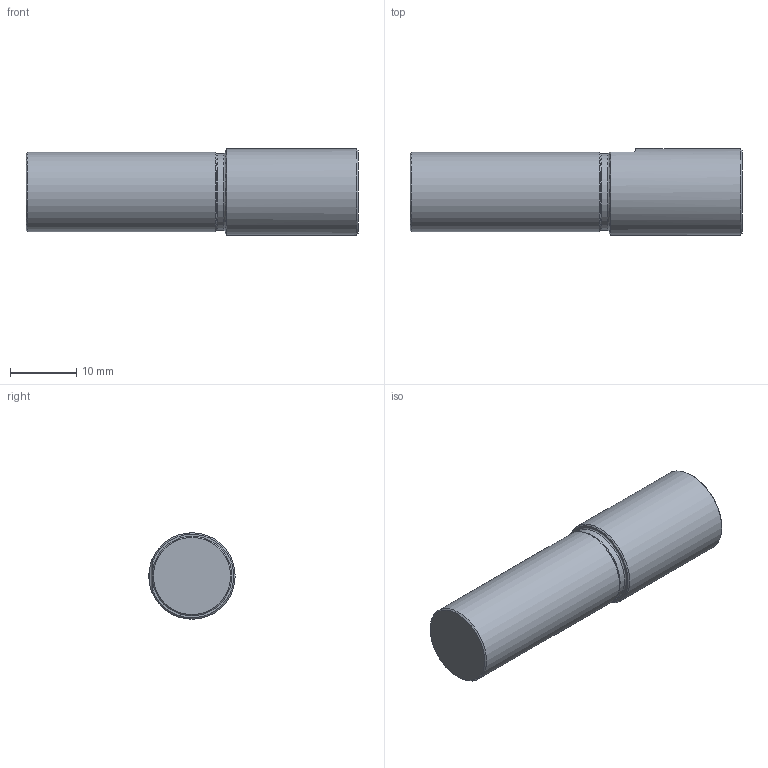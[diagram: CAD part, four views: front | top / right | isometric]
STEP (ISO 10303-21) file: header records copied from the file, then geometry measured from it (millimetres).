
FILE_DESCRIPTION(/* description */ (''),/* implementation_level */ '2;1');
FILE_NAME(/* name */ 'UF S-L050-D13-C12.stp',/* time_stamp */ '2026-03-04T21:45:19+02:00',/* author */ ('harel'),/* organization */ (''),/* preprocessor_version */ 'ST-DEVELOPER v20',/* originating_system */ 'Autodesk Inventor 2025',/* authorisation */ '');
FILE_SCHEMA (('AUTOMOTIVE_DESIGN { 1 0 10303 214 3 1 1 }'));
Length unit declared in the file: millimetre
Products named in the file (1): UF S-L045-D06-C06
Bounding box: 50 x 13 x 13 mm (x, y, z)
Volume: 6029 mm3; surface area: 2203.2 mm2
Topology: 1 solids, 1 shells, 15 faces, 35 edges, 22 vertices
Faces by surface type: plane 5, cylinder 4, cone 4, torus 2
Full cylindrical faces by diameter (mm): 11.6 x1, 12 x1, 13 x1
Entity records: 495 total; most frequent: CARTESIAN_POINT 99, DIRECTION 82, ORIENTED_EDGE 70, EDGE_CURVE 35, AXIS2_PLACEMENT_3D 35, VERTEX_POINT 22, CIRCLE 19, FACE_OUTER_BOUND 15
